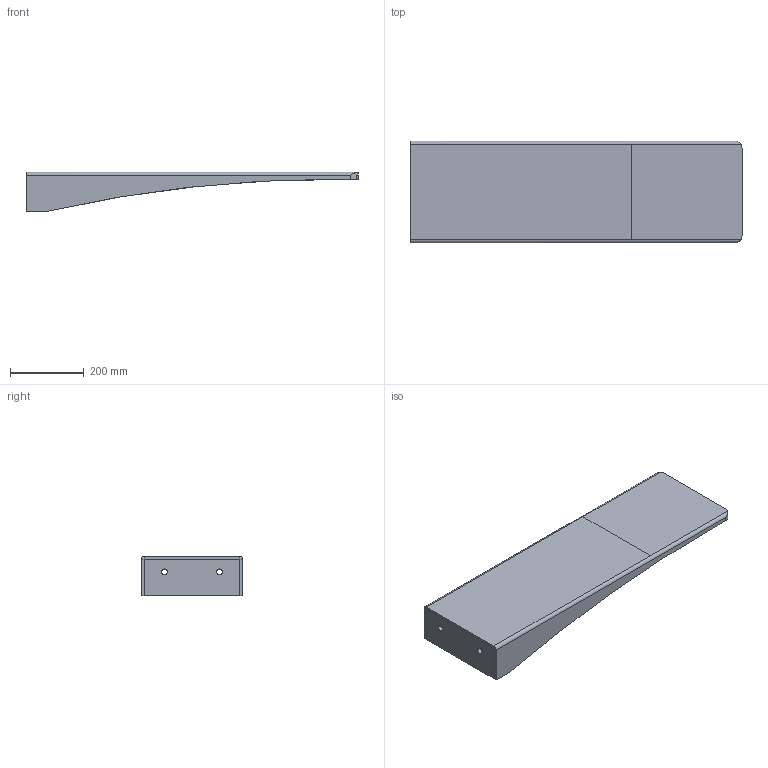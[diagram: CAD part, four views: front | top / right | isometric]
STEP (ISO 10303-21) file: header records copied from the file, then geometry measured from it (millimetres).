
FILE_DESCRIPTION (( 'STEP AP214' ), '1' );
FILE_NAME ('MARCHE TOLE PLIEE.STEP', '2010-11-27T13:39:08', ( ' ' ), ( ' ' ), 'SwSTEP 2.0', 'SolidWorks 2008', '' );
FILE_SCHEMA (( 'AUTOMOTIVE_DESIGN' ));
Length unit declared in the file: millimetre
Products named in the file (4): MARCHE TOLE_Défaut; PLAT 8x12x260_Défaut; PLATINE MURALE_Défaut; MARCHE TOLE PLIEE
Assembly tree (3 placements, depth 2):
  MARCHE TOLE PLIEE
    PLATINE MURALE_Défaut
    PLAT 8x12x260_Défaut
    MARCHE TOLE_Défaut
Bounding box: 900 x 276 x 108 mm (x, y, z)
Volume: 2883549 mm3; surface area: 730497.5 mm2
Topology: 3 solids, 3 shells, 46 faces, 112 edges, 72 vertices
Faces by surface type: plane 31, cylinder 15
Entity records: 1543 total; most frequent: CARTESIAN_POINT 330, DIRECTION 234, ORIENTED_EDGE 224, EDGE_CURVE 112, VECTOR 78, LINE 78, AXIS2_PLACEMENT_3D 78, VERTEX_POINT 72
